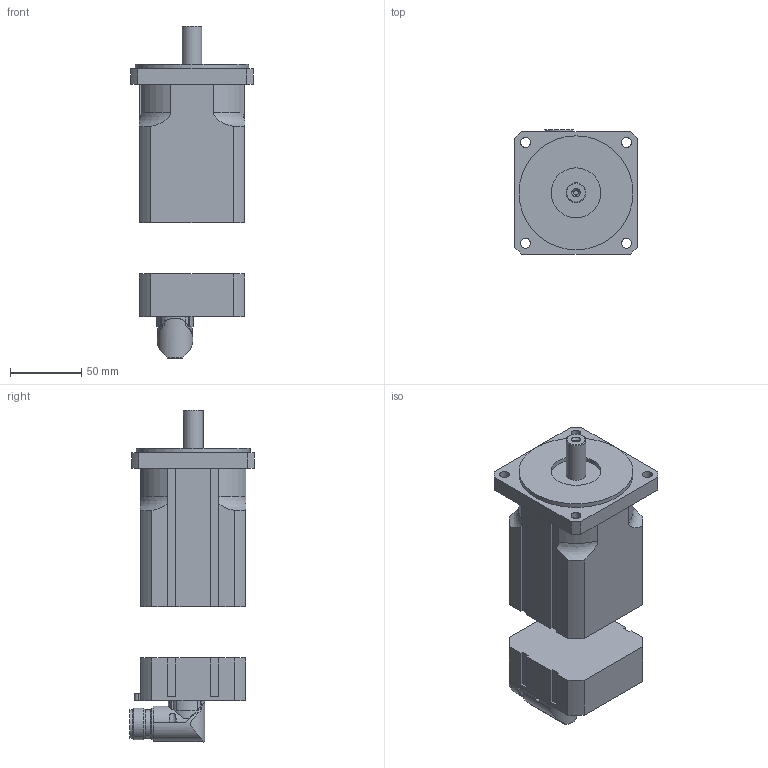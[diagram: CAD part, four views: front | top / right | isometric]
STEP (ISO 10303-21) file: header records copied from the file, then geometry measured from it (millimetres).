
FILE_DESCRIPTION(/* description */ ('Alibre Inc.'),/* implementation_level */ '2;1');
FILE_NAME(/* name */ 'export0',/* time_stamp */ '2011-01-14T14:07:38+01:00',/* author */ (''),/* organization */ (''),/* preprocessor_version */ 'ST-DEVELOPER v12',/* originating_system */ 'Alibre',/* authorisation */ '');
FILE_SCHEMA (('ALIBRE_SCHEMA','CONFIG_CONTROL_DESIGN'));
Length unit declared in the file: millimetre
Products named in the file (5): ID_1
Bounding box: 86 x 87.51 x 233 mm (x, y, z)
Volume: 778887.2 mm3; surface area: 78598 mm2
Topology: 4 solids, 4 shells, 166 faces, 445 edges, 297 vertices
Faces by surface type: cylinder 66, plane 66, bspline 26, cone 4, torus 4
Full cylindrical faces by diameter (mm): 2.7 x4, 14 x1, 20 x3, 22 x2, 35 x1, 80 x1
Entity records: 16329 total; most frequent: CARTESIAN_POINT 4605, ORIENTED_EDGE 1752, DIRECTION 1734, EDGE_CURVE 876, AXIS2_PLACEMENT_3D 648, VERTEX_POINT 620, VECTOR 568, LINE 520
